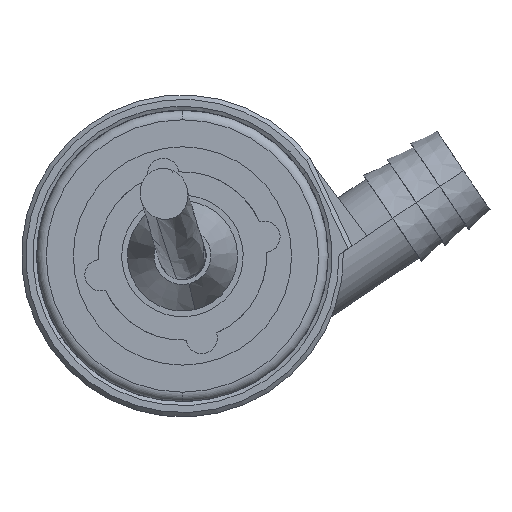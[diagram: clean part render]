
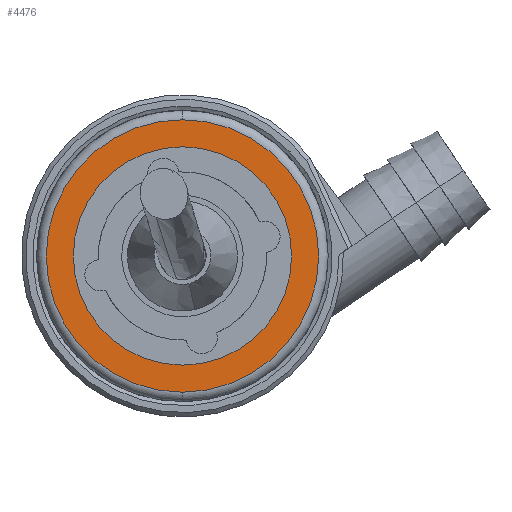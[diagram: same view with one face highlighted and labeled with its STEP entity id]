
A CAD part, front view. The second image highlights one B-rep face of the part: STEP entity #4476.
In plain terms, the highlighted planar face has unit normal (0, -1, 0).
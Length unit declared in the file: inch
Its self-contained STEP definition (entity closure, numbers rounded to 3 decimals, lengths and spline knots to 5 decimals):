
#468 = DIRECTION ( 'NONE',  ( 0., 1., 0. ) ) ;
#498 = CARTESIAN_POINT ( 'NONE',  ( -0.7675, 0., 0. ) ) ;
#518 = CIRCLE ( 'NONE', #1121, 0.575 ) ;
#936 = VERTEX_POINT ( 'NONE', #4243 ) ;
#949 = DIRECTION ( 'NONE',  ( 0., 0., 1. ) ) ;
#994 = FACE_OUTER_BOUND ( 'NONE', #4337, .T. ) ;
#1121 = AXIS2_PLACEMENT_3D ( 'NONE', #7020, #5863, #949 ) ;
#1289 = ORIENTED_EDGE ( 'NONE', *, *, #1446, .F. ) ;
#1446 = EDGE_CURVE ( 'NONE', #936, #2241, #4223, .T. ) ;
#1530 = PLANE ( 'NONE',  #6704 ) ;
#1611 = VERTEX_POINT ( 'NONE', #2196 ) ;
#1652 = CIRCLE ( 'NONE', #2471, 0.7175 ) ;
#1732 = ORIENTED_EDGE ( 'NONE', *, *, #4308, .T. ) ;
#1879 = CARTESIAN_POINT ( 'NONE',  ( 0., 0., 0. ) ) ;
#1905 = AXIS2_PLACEMENT_3D ( 'NONE', #2167, #6506, #3817 ) ;
#2027 = EDGE_CURVE ( 'NONE', #1611, #2608, #6621, .T. ) ;
#2072 = CARTESIAN_POINT ( 'NONE',  ( 0., 0., -0.575 ) ) ;
#2167 = CARTESIAN_POINT ( 'NONE',  ( 0., 0., 0. ) ) ;
#2196 = CARTESIAN_POINT ( 'NONE',  ( 0., 0., -0.7175 ) ) ;
#2241 = VERTEX_POINT ( 'NONE', #2072 ) ;
#2471 = AXIS2_PLACEMENT_3D ( 'NONE', #5117, #5681, #5152 ) ;
#2608 = VERTEX_POINT ( 'NONE', #5421 ) ;
#2952 = ORIENTED_EDGE ( 'NONE', *, *, #2027, .T. ) ;
#3267 = ORIENTED_EDGE ( 'NONE', *, *, #6540, .F. ) ;
#3817 = DIRECTION ( 'NONE',  ( 0., 0., 1. ) ) ;
#3871 = AXIS2_PLACEMENT_3D ( 'NONE', #1879, #5753, #5836 ) ;
#4223 = CIRCLE ( 'NONE', #1905, 0.575 ) ;
#4243 = CARTESIAN_POINT ( 'NONE',  ( 0., 0., 0.575 ) ) ;
#4308 = EDGE_CURVE ( 'NONE', #2608, #1611, #1652, .T. ) ;
#4337 = EDGE_LOOP ( 'NONE', ( #2952, #1732 ) ) ;
#4476 = ADVANCED_FACE ( 'NONE', ( #5334, #994 ), #1530, .F. ) ;
#4842 = DIRECTION ( 'NONE',  ( 0., 0., -1. ) ) ;
#5040 = EDGE_LOOP ( 'NONE', ( #1289, #3267 ) ) ;
#5117 = CARTESIAN_POINT ( 'NONE',  ( 0., 0., 0. ) ) ;
#5152 = DIRECTION ( 'NONE',  ( 0., 0., -1. ) ) ;
#5334 = FACE_BOUND ( 'NONE', #5040, .T. ) ;
#5421 = CARTESIAN_POINT ( 'NONE',  ( 0., 0., 0.7175 ) ) ;
#5681 = DIRECTION ( 'NONE',  ( 0., -1., 0. ) ) ;
#5753 = DIRECTION ( 'NONE',  ( 0., -1., 0. ) ) ;
#5836 = DIRECTION ( 'NONE',  ( 0., 0., -1. ) ) ;
#5863 = DIRECTION ( 'NONE',  ( 0., -1., 0. ) ) ;
#6506 = DIRECTION ( 'NONE',  ( 0., -1., 0. ) ) ;
#6540 = EDGE_CURVE ( 'NONE', #2241, #936, #518, .T. ) ;
#6621 = CIRCLE ( 'NONE', #3871, 0.7175 ) ;
#6704 = AXIS2_PLACEMENT_3D ( 'NONE', #498, #468, #4842 ) ;
#7020 = CARTESIAN_POINT ( 'NONE',  ( 0., 0., 0. ) ) ;
